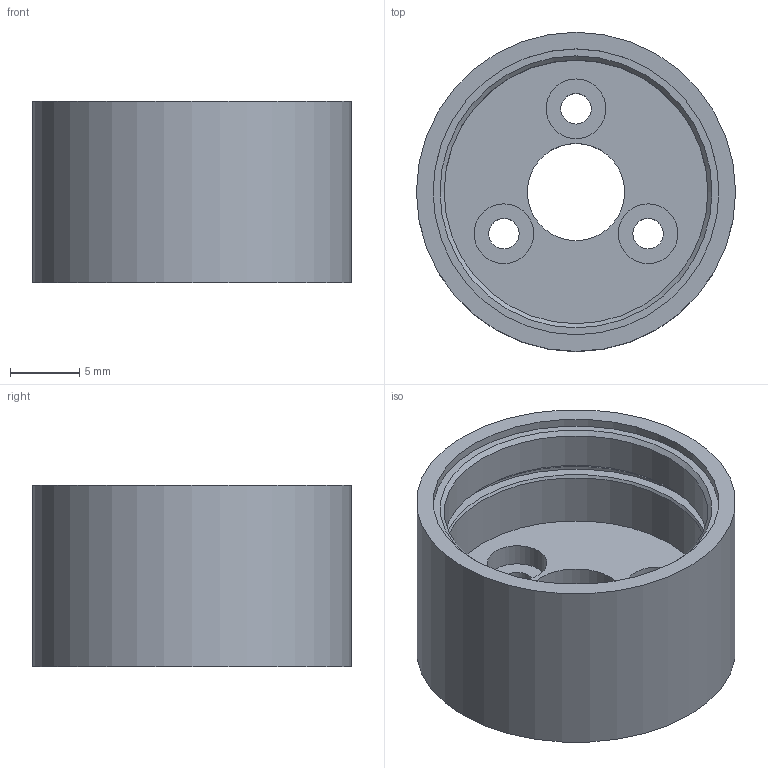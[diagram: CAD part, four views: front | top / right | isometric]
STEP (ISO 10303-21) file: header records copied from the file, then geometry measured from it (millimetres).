
FILE_DESCRIPTION(/* description */ (''),/* implementation_level */ '2;1');
FILE_NAME(/* name */ '23-1_flange_a.stp',/* time_stamp */ '2016-09-06T15:12:40+02:00',/* author */ ('DR. FRITZ FAULHABER GmbH & Co. KG'),/* organization */ ('DR. FRITZ FAULHABER GmbH & Co. KG'),/* preprocessor_version */ 'ST-DEVELOPER v16',/* originating_system */ 'SIEMENS PLM Software NX 10.0',/* authorisation */ '');
FILE_SCHEMA (('AUTOMOTIVE_DESIGN { 1 0 10303 214 3 1 1 1 }'));
Length unit declared in the file: millimetre
Products named in the file (1): F0200011860_E
Bounding box: 23 x 23 x 13.1 mm (x, y, z)
Volume: 2709.3 mm3; surface area: 2491.4 mm2
Topology: 1 solids, 1 shells, 24 faces, 89 edges, 119 vertices
Faces by surface type: cylinder 12, plane 9, cone 3
Full cylindrical faces by diameter (mm): 2.2 x3, 4.3 x3, 7 x1, 19 x2, 20.6 x2, 23 x1
Entity records: 982 total; most frequent: DIRECTION 153, CARTESIAN_POINT 126, AXIS2_PLACEMENT_3D 55, FACE_BOUND 54, EDGE_LOOP 54, ORIENTED_EDGE 54, STYLED_ITEM 48, PRESENTATION_STYLE_ASSIGNMENT 48
